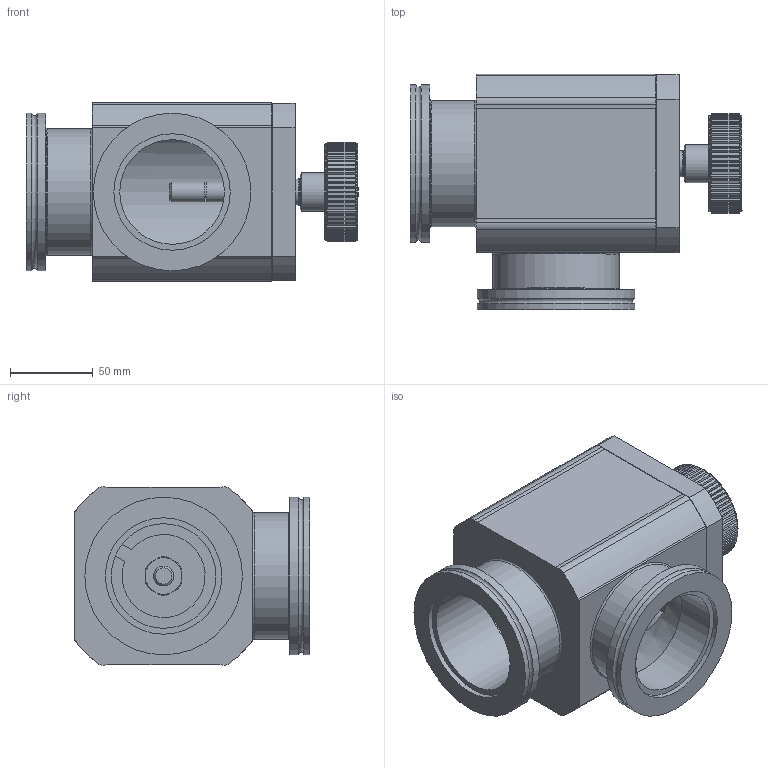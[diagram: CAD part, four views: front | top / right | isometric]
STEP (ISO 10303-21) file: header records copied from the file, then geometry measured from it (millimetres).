
FILE_DESCRIPTION(/* description */ (''),/* implementation_level */ '2;1');
FILE_NAME(/* name */ '1349959140_203.stp',/* time_stamp */ '2013-07-15T12:18:41+02:00',/* author */ (''),/* organization */ (''),/* preprocessor_version */ 'ST-DEVELOPER v11',/* originating_system */ 'SIEMENS PLM Software NX 7.5',/* authorisation */ '');
FILE_SCHEMA (('AP203_CONFIGURATION_CONTROLLED_3D_DESIGN_OF_MECHANICAL_PARTS_AND_ASSEMBLIES_MIM_LF'));
Length unit declared in the file: millimetre
Products named in the file (7): 414761_17833ID; 457154; 245913; 224794.1; 254941.4; 459840_MODEL; 543246
Assembly tree (9 placements, depth 3):
  543246
    254941.4
    224794.1  x4
    245913
    457154
    459840_MODEL
      414761_17833ID
Bounding box: 200 x 141.8 x 107.6 mm (x, y, z)
Volume: 759965 mm3; surface area: 191417.5 mm2
Topology: 8 solids, 8 shells, 615 faces, 1371 edges, 812 vertices
Faces by surface type: plane 253, cylinder 172, cone 165, torus 21, bspline 4
Full cylindrical faces by diameter (mm): 4.2 x4, 5 x8, 5.5 x4, 8 x2, 8.5 x4, 9.5 x4, 10 x1, 12 x3, 12.04 x1, 14 x1, 15.957 x1, 16 x2, 16.05 x1, 16.2 x1, 19 x1, 23 x1, 50 x1, 58 x2, 63 x2, 70.095 x2, 76 x2, 77 x2, 90.4 x2, 93 x1, 94.89 x4, 102.6 x1, 104.8 x1
Entity records: 16596 total; most frequent: CARTESIAN_POINT 3690, DIRECTION 2510, ORIENTED_EDGE 2336, EDGE_CURVE 1168, AXIS2_PLACEMENT_3D 1073, VERTEX_POINT 735, EDGE_LOOP 706, ADVANCED_FACE 570
